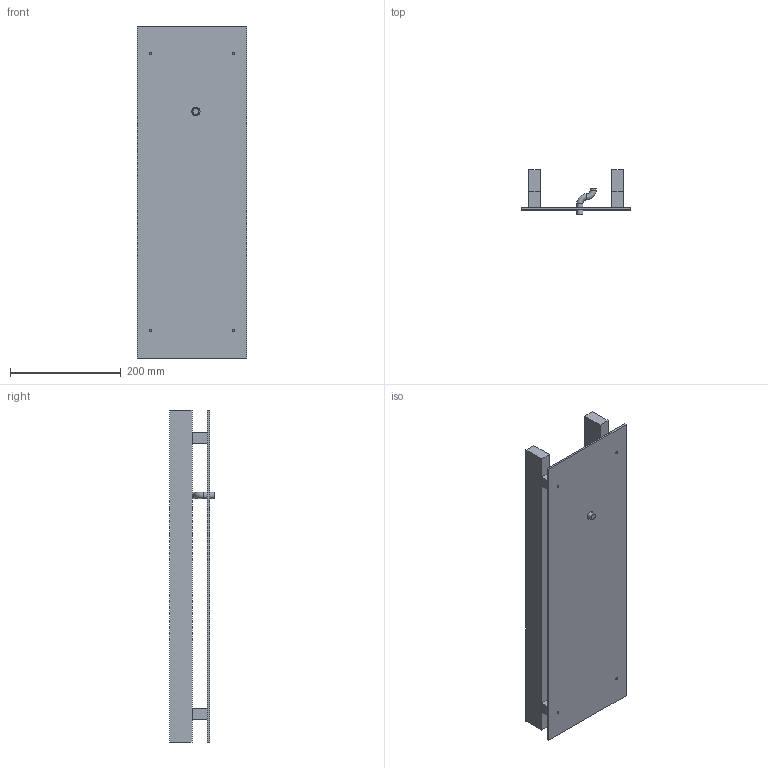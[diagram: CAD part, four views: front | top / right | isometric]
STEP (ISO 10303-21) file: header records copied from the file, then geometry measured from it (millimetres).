
FILE_DESCRIPTION(('Open CASCADE Model'),'2;1');
FILE_NAME('Open CASCADE Shape Model','2026-11-14T16:01:24',('Author'),( 'Open CASCADE'),'Open CASCADE STEP processor 7.9','Open CASCADE 7.9' ,'Unknown');
FILE_SCHEMA(('AUTOMOTIVE_DESIGN { 1 0 10303 214 1 1 1 1 }'));
Length unit declared in the file: millimetre
Products named in the file (9): Open CASCADE STEP translator 7.9 63; Open CASCADE STEP translator 7.9 63.1; Open CASCADE STEP translator 7.9 63.2; Open CASCADE STEP translator 7.9 63.3; Open CASCADE STEP translator 7.9 63.4; Open CASCADE STEP translator 7.9 63.5; Open CASCADE STEP translator 7.9 63.6; Open CASCADE STEP translator 7.9 63.7; Open CASCADE STEP translator 7.9 63.8
Assembly tree (8 placements, depth 2):
  Open CASCADE STEP translator 7.9 63
    Open CASCADE STEP translator 7.9 63.1
    Open CASCADE STEP translator 7.9 63.2
    Open CASCADE STEP translator 7.9 63.3
    Open CASCADE STEP translator 7.9 63.4
    Open CASCADE STEP translator 7.9 63.5
    Open CASCADE STEP translator 7.9 63.6
    Open CASCADE STEP translator 7.9 63.7
    Open CASCADE STEP translator 7.9 63.8
Bounding box: 198 x 80 x 600 mm (x, y, z)
Volume: 1482959.3 mm3; surface area: 406997.6 mm2
Topology: 8 solids, 8 shells, 57 faces, 120 edges, 79 vertices
Faces by surface type: plane 44, cylinder 11, torus 2
Full cylindrical faces by diameter (mm): 4.5 x8, 11 x2, 15 x1
Entity records: 3244 total; most frequent: CARTESIAN_POINT 512, DIRECTION 510, LINE 308, VECTOR 308, ORIENTED_EDGE 240, PCURVE 240, DEFINITIONAL_REPRESENTATION 240, EDGE_CURVE 120
